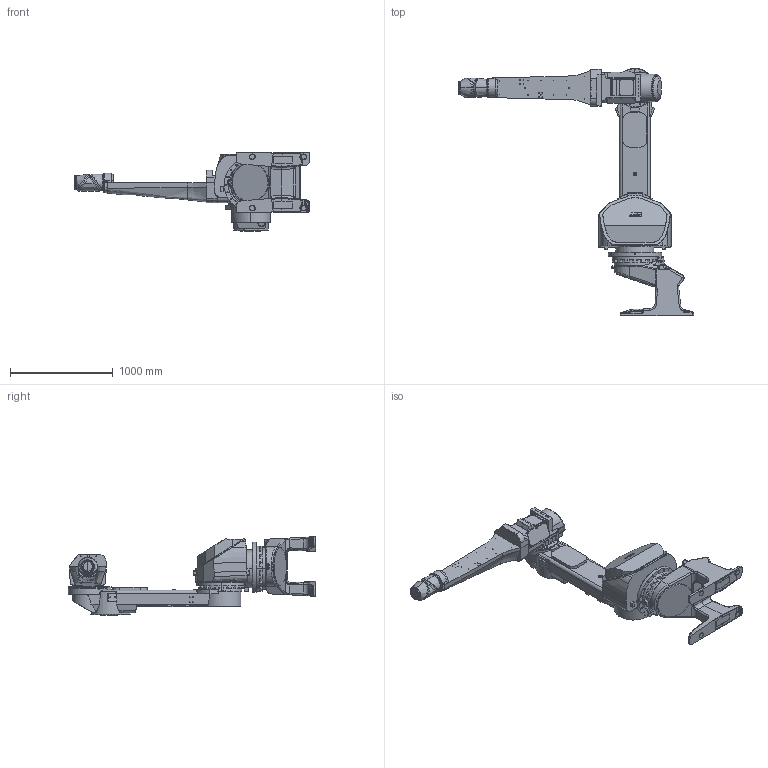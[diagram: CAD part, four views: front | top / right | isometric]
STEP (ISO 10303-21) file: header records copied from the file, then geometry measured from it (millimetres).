
FILE_DESCRIPTION (( 'STEP AP203' ), '1' );
FILE_NAME ('IRB5500-22_rev00.STEP', '2021-04-21T17:52:06', ( '' ), ( '' ), 'SwSTEP 2.0', 'SolidWorks 2018', '' );
FILE_SCHEMA (( 'CONFIG_CONTROL_DESIGN' ));
Length unit declared in the file: millimetre
Products named in the file (9): IRB5500-22_rev00_LINK5_CAD; IRB5500-22_rev00_LINK6_CAD; IRB5500-22_rev00; IRB5500-22_rev00_LINK4_CAD; IRB5500-22_rev00_LINK3_CAD; IRB5500-22_rev00_LINK1_CAD; IRB5500-22_rev00_LINK2_CAD; IRB5500-22_rev00_FOOT_RAISED_CAD; IRB5500-22_rev00_LINK5B_CAD
Assembly tree (8 placements, depth 2):
  IRB5500-22_rev00
    IRB5500-22_rev00_FOOT_RAISED_CAD
    IRB5500-22_rev00_LINK1_CAD
    IRB5500-22_rev00_LINK2_CAD
    IRB5500-22_rev00_LINK3_CAD
    IRB5500-22_rev00_LINK4_CAD
    IRB5500-22_rev00_LINK5_CAD
    IRB5500-22_rev00_LINK5B_CAD
    IRB5500-22_rev00_LINK6_CAD
Bounding box: 2296.23 x 2410 x 766.78 mm (x, y, z)
Volume: 394184664.8 mm3; surface area: 8152665.2 mm2
Topology: 9 solids, 11 shells, 2296 faces, 5933 edges, 3834 vertices
Faces by surface type: plane 978, cylinder 814, bspline 325, cone 75, torus 71, sphere 33
Entity records: 114441 total; most frequent: CARTESIAN_POINT 61230, ORIENTED_EDGE 11772, DIRECTION 9653, EDGE_CURVE 5886, VERTEX_POINT 3830, AXIS2_PLACEMENT_3D 3516, VECTOR 2621, LINE 2621
